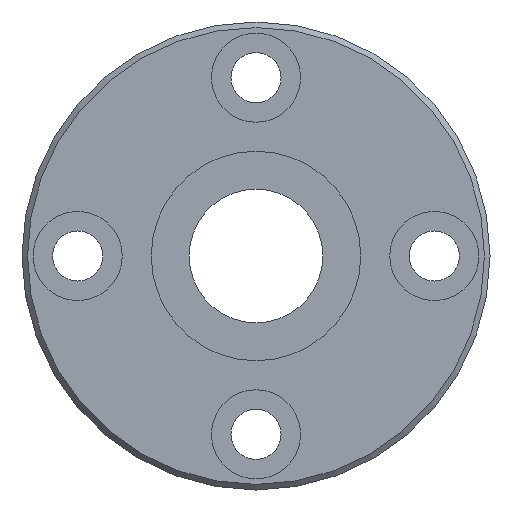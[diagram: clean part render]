
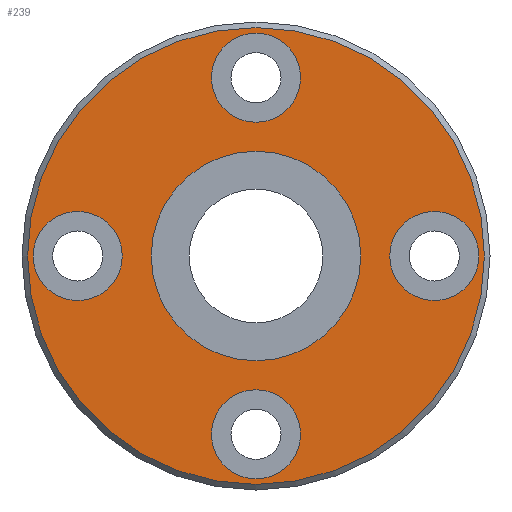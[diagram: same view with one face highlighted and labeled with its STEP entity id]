
A CAD part, left-side view. The second image highlights one B-rep face of the part: STEP entity #239.
In plain terms, the highlighted planar face has unit normal (-1, 0, 0).
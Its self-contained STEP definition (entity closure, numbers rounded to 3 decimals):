
#164=CARTESIAN_POINT('',(0.0,0.,20.5));
#165=VERTEX_POINT('',#164);
#166=CARTESIAN_POINT('',(0.0,0.0,0.0));
#167=DIRECTION('',(1.0,0.0,0.0));
#168=DIRECTION('',(0.0,0.0,-1.0));
#169=AXIS2_PLACEMENT_3D('',#166,#167,#168);
#170=CIRCLE('',#169,20.5);
#171=EDGE_CURVE('',#165,#165,#170,.T.);
#176=CARTESIAN_POINT('',(0.0,0.0,10.2));
#177=DIRECTION('',(-1.0,0.0,0.0));
#178=DIRECTION('',(0.0,0.0,1.0));
#179=AXIS2_PLACEMENT_3D('',#176,#177,#178);
#180=PLANE('',#179);
#181=ORIENTED_EDGE('',*,*,#171,.F.);
#182=EDGE_LOOP('',(#181));
#183=FACE_OUTER_BOUND('',#182,.T.);
#184=CARTESIAN_POINT('',(0.0,0.0,9.4));
#185=VERTEX_POINT('',#184);
#186=CARTESIAN_POINT('',(0.0,0.0,0.0));
#187=DIRECTION('',(-1.0,0.0,0.0));
#188=DIRECTION('',(0.0,0.0,1.0));
#189=AXIS2_PLACEMENT_3D('',#186,#187,#188);
#190=CIRCLE('',#189,9.4);
#191=EDGE_CURVE('',#185,#185,#190,.T.);
#192=ORIENTED_EDGE('',*,*,#191,.F.);
#193=EDGE_LOOP('',(#192));
#194=FACE_BOUND('',#193,.T.);
#195=CARTESIAN_POINT('',(0.0,20.0,0.));
#196=VERTEX_POINT('',#195);
#197=CARTESIAN_POINT('',(0.0,16.0,0.));
#198=DIRECTION('',(1.0,0.0,0.0));
#199=DIRECTION('',(0.0,1.0,0.0));
#200=AXIS2_PLACEMENT_3D('',#197,#198,#199);
#201=CIRCLE('',#200,4.0);
#202=EDGE_CURVE('',#196,#196,#201,.T.);
#203=ORIENTED_EDGE('',*,*,#202,.T.);
#204=EDGE_LOOP('',(#203));
#205=FACE_BOUND('',#204,.T.);
#206=CARTESIAN_POINT('',(0.0,-12.,0.));
#207=VERTEX_POINT('',#206);
#208=CARTESIAN_POINT('',(0.0,-16.0,0.));
#209=DIRECTION('',(1.0,0.0,0.0));
#210=DIRECTION('',(0.0,1.0,0.0));
#211=AXIS2_PLACEMENT_3D('',#208,#209,#210);
#212=CIRCLE('',#211,4.0);
#213=EDGE_CURVE('',#207,#207,#212,.T.);
#214=ORIENTED_EDGE('',*,*,#213,.T.);
#215=EDGE_LOOP('',(#214));
#216=FACE_BOUND('',#215,.T.);
#217=CARTESIAN_POINT('',(0.0,4.,16.0));
#218=VERTEX_POINT('',#217);
#219=CARTESIAN_POINT('',(0.0,0.,16.0));
#220=DIRECTION('',(1.0,0.0,0.0));
#221=DIRECTION('',(0.0,1.0,0.0));
#222=AXIS2_PLACEMENT_3D('',#219,#220,#221);
#223=CIRCLE('',#222,4.0);
#224=EDGE_CURVE('',#218,#218,#223,.T.);
#225=ORIENTED_EDGE('',*,*,#224,.T.);
#226=EDGE_LOOP('',(#225));
#227=FACE_BOUND('',#226,.T.);
#228=CARTESIAN_POINT('',(0.0,4.,-16.0));
#229=VERTEX_POINT('',#228);
#230=CARTESIAN_POINT('',(0.0,0.,-16.0));
#231=DIRECTION('',(1.0,0.0,0.0));
#232=DIRECTION('',(0.0,1.0,0.0));
#233=AXIS2_PLACEMENT_3D('',#230,#231,#232);
#234=CIRCLE('',#233,4.0);
#235=EDGE_CURVE('',#229,#229,#234,.T.);
#236=ORIENTED_EDGE('',*,*,#235,.T.);
#237=EDGE_LOOP('',(#236));
#238=FACE_BOUND('',#237,.T.);
#239=ADVANCED_FACE('',(#183,#194,#205,#216,#227,#238),#180,.T.);
